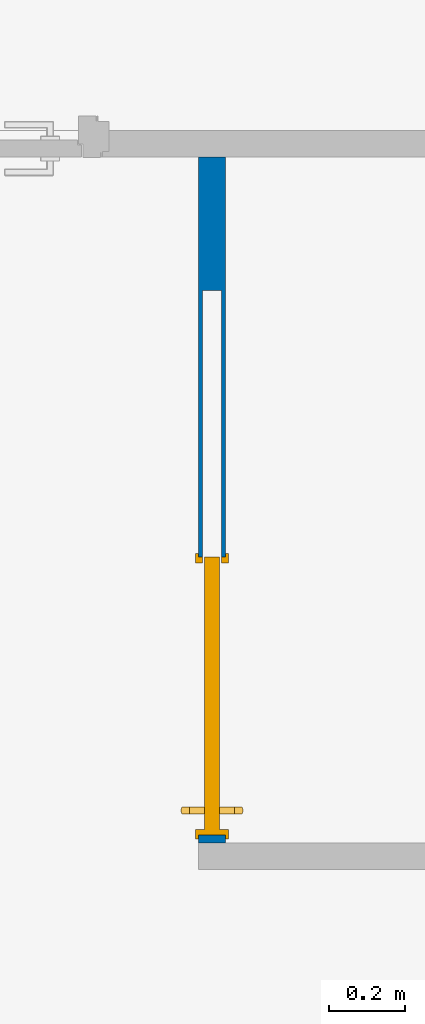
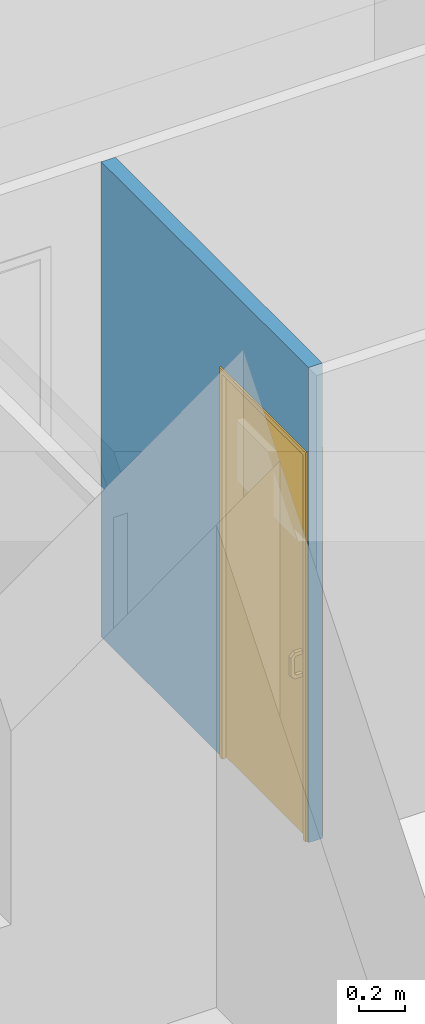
# One storey, part 29 of 61: 1 door, 1 wall, 1 opening.
"""IFC2X3 building model written with IfcOpenShell, lengths in metres."""

from ifc_helpers import new_model, entity, si_unit, converted_unit, derived_unit, direction, frame, frame_2d, origin, place, context, subcontext, project, spatial, rectangle, extrude, faceted_brep, source, transform, mapped, material, material_list, layer, layer_set, layer_usage, type_object, type_shapes, element, fill, save


model = new_model("IFC2X3")

# Units and contexts
model_context = context("Model", 3, precision=1e-05, world=origin(), true_north=direction((6.12303176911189e-17, 1.0)))
body_context = subcontext(model_context, "Body", "Model", "MODEL_VIEW")
ifc_project = project(units=[si_unit("LENGTHUNIT", "METRE"), si_unit("AREAUNIT", "SQUARE_METRE"), si_unit("VOLUMEUNIT", "CUBIC_METRE"), converted_unit("PLANEANGLEUNIT", "DEGREE", entity("IfcRatioMeasure", 0.0174532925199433), si_unit("PLANEANGLEUNIT", "RADIAN"), dimensions=[0, 0, 0, 0, 0, 0, 0]), si_unit("MASSUNIT", "GRAM", prefix="KILO"), derived_unit("MASSDENSITYUNIT", [(si_unit("MASSUNIT", "GRAM", prefix="KILO"), 1), (si_unit("LENGTHUNIT", "METRE"), -3)]), si_unit("TIMEUNIT", "SECOND"), si_unit("FREQUENCYUNIT", "HERTZ"), si_unit("THERMODYNAMICTEMPERATUREUNIT", "DEGREE_CELSIUS"), derived_unit("THERMALTRANSMITTANCEUNIT", [(si_unit("MASSUNIT", "GRAM", prefix="KILO"), 1), (si_unit("THERMODYNAMICTEMPERATUREUNIT", "KELVIN"), -1), (si_unit("TIMEUNIT", "SECOND"), -3)]), derived_unit("VOLUMETRICFLOWRATEUNIT", [(si_unit("LENGTHUNIT", "METRE"), 3), (si_unit("TIMEUNIT", "SECOND"), -1)]), si_unit("ELECTRICCURRENTUNIT", "AMPERE"), si_unit("ELECTRICVOLTAGEUNIT", "VOLT"), si_unit("POWERUNIT", "WATT"), si_unit("FORCEUNIT", "NEWTON", prefix="KILO"), si_unit("ILLUMINANCEUNIT", "LUX"), si_unit("LUMINOUSFLUXUNIT", "LUMEN"), si_unit("LUMINOUSINTENSITYUNIT", "CANDELA"), derived_unit("USERDEFINED", [(si_unit("MASSUNIT", "GRAM", prefix="KILO"), -1), (si_unit("LENGTHUNIT", "METRE"), -2), (si_unit("TIMEUNIT", "SECOND"), 3), (si_unit("LUMINOUSFLUXUNIT", "LUMEN"), 1)]), derived_unit("LINEARVELOCITYUNIT", [(si_unit("LENGTHUNIT", "METRE"), 1), (si_unit("TIMEUNIT", "SECOND"), -1)]), si_unit("PRESSUREUNIT", "PASCAL"), derived_unit("USERDEFINED", [(si_unit("LENGTHUNIT", "METRE"), -2), (si_unit("MASSUNIT", "GRAM", prefix="KILO"), 1), (si_unit("TIMEUNIT", "SECOND"), -2)])], contexts=[model_context])

# Site, building, storey
site_placement = place(None, origin())
site = spatial("IfcSite", under=ifc_project, at=site_placement, Name="Surface", CompositionType="ELEMENT")
building_placement = place(site_placement, origin())
building = spatial("IfcBuilding", under=site, at=building_placement, CompositionType="ELEMENT")
storey_placement = place(building_placement, frame((0.0, 0.0, 2.82)))
storey = spatial("IfcBuildingStorey", under=building, at=storey_placement, Name="ETAGE", CompositionType="ELEMENT", Elevation=2.82)

# Wall, opening, door
ifc_material_1 = material(Name="Peinture - Blanc")
ifc_layer = layer(ifc_material_1, 0.07)
ifc_layer_set = layer_set([ifc_layer], Name="Mur de base:Int.  Platre 70 mm en blanc")
ifc_layer_usage = layer_usage(ifc_layer_set, "AXIS2", "POSITIVE", -0.035)
wall_type = type_object("IfcWallType", Name="Mur de base:Int.  Platre 70 mm en blanc", PredefinedType="STANDARD", material=ifc_layer_set)
wall_placement = place(storey_placement, frame((81.0960189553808, 86.6075239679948, 0.0), z_axis=(0.0, 0.0, 1.0), x_axis=(0.0, -1.0, 0.0)))
wall = element("IfcWallStandardCase", 1, at=wall_placement, inside=storey, type_object=wall_type, material=ifc_layer_usage, Name="Mur de base:Int.  Platre 70 mm en blanc", ObjectType="Mur de base:Int.  Platre 70 mm en blanc", context=body_context, shape_type="SweptSolid", body=[
    extrude(rectangle(XDim=1.80000000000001, YDim=0.0699999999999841, at=frame_2d((0.900000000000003, 0.0), x_axis=(-1.0, 0.0))), origin(), (0.0, 0.0, 1.0), 2.52),
])
opening_placement = place(wall_placement, frame((1.77999999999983, -0.185000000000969, 0.0), z_axis=(0.0, 0.0, 1.0), x_axis=(0.0, 1.0, 0.0)))
opening = element("IfcOpeningElement", 2, at=opening_placement, cuts=wall, Name="Mur de base:Int.  Platre 70 mm en blanc", ObjectType="Opening", context=body_context, shape_type="Brep", body=[
    faceted_brep([(0.0, 0.0, 2.055), (0.0, 0.0, 0.0), (0.370000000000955, 0.0, 0.0), (0.370000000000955, 0.0, 2.055), (0.0, 0.729999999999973, 2.055), (0.0, 0.72999999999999, 0.0), (0.160000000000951, 0.729999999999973, 2.055), (0.160000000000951, 0.72999999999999, 0.0), (0.160000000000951, 1.42999999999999, 2.055), (0.160000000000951, 1.42999999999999, 0.0), (0.210000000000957, 1.42999999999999, 2.055), (0.210000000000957, 1.42999999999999, 0.0), (0.210000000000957, 0.729999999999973, 2.055), (0.210000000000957, 0.72999999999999, 0.0), (0.370000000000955, 0.72999999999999, 2.055), (0.370000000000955, 0.72999999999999, 0.0)], [[[0, 1, 2, 3]], [[4, 5, 1, 0]], [[6, 7, 5, 4]], [[8, 9, 7, 6]], [[10, 11, 9, 8]], [[12, 13, 11, 10]], [[14, 12, 10, 8, 6, 4, 0, 3]], [[15, 2, 1, 5, 7, 9, 11, 13]], [[3, 2, 15, 14]], [[14, 15, 13, 12]]]),
])
ifc_material_2 = material(Name="Porte - Poignée")
ifc_material_3 = material(Name="Porte - Panneau")
ifc_material_4 = material(Name="Porte - Cadre")
ifc_material_list_1 = material_list([ifc_material_2, ifc_material_3, ifc_material_4])
ifc_material_list_2 = material_list([ifc_material_2, ifc_material_3, ifc_material_4])
door_style = type_object("IfcDoorStyle", Name="0.70m x 2.04m 2", ConstructionType="NOTDEFINED", OperationType="NOTDEFINED", ParameterTakesPrecedence=False, Sizeable=False, material=ifc_material_list_2)
shared_shape = source(origin(), body_context, "Body", "Brep", [
    faceted_brep([(0.778370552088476, 0.300805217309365, 0.949316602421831), (0.783009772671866, 0.300805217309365, 0.94874401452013), (0.787648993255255, 0.300805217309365, 0.94931660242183), (0.792009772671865, 0.300805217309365, 0.951000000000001), (0.792009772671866, 0.300805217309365, 0.969), (0.787648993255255, 0.300805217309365, 0.97068339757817), (0.783009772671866, 0.300805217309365, 0.971255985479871), (0.778370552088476, 0.300805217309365, 0.97068339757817), (0.774009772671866, 0.300805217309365, 0.969), (0.774009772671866, 0.300805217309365, 0.951000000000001), (0.778370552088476, 0.300805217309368, 0.850683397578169), (0.774009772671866, 0.300805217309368, 0.848999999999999), (0.774009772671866, 0.300805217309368, 0.831), (0.778370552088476, 0.300805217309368, 0.829316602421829), (0.783009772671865, 0.300805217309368, 0.828744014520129), (0.787648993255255, 0.300805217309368, 0.829316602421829), (0.792009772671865, 0.300805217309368, 0.831), (0.792009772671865, 0.300805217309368, 0.848999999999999), (0.787648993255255, 0.300805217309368, 0.850683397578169), (0.783009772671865, 0.300805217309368, 0.85125598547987), (0.792009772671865, 0.339533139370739, 0.831), (0.792009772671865, 0.359805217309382, 0.851272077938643), (0.792009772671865, 0.359805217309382, 0.948727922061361), (0.792009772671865, 0.33953313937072, 0.969), (0.792009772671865, 0.33207729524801, 0.951000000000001), (0.792009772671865, 0.341805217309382, 0.941272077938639), (0.792009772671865, 0.341805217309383, 0.858727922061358), (0.792009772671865, 0.332077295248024, 0.848999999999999), (0.787648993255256, 0.340230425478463, 0.97068339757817), (0.783009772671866, 0.340467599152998, 0.971255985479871), (0.778370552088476, 0.340230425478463, 0.97068339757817), (0.774009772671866, 0.33953313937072, 0.969), (0.774009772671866, 0.359805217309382, 0.948727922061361), (0.774009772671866, 0.359805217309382, 0.851272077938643), (0.774009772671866, 0.339533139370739, 0.831), (0.774009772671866, 0.332077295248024, 0.848999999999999), (0.774009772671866, 0.341805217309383, 0.858727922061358), (0.774009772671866, 0.341805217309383, 0.94127207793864), (0.774009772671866, 0.33207729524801, 0.951000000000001), (0.778370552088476, 0.331380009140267, 0.949316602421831), (0.783009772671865, 0.331142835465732, 0.94874401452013), (0.787648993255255, 0.331380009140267, 0.94931660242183), (0.787648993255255, 0.361488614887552, 0.949425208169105), (0.783009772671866, 0.362061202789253, 0.949662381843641), (0.778370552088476, 0.361488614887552, 0.949425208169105), (0.778370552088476, 0.340121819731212, 0.940574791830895), (0.783009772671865, 0.339549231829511, 0.940337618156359), (0.787648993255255, 0.340121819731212, 0.940574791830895), (0.787648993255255, 0.361488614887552, 0.850574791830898), (0.783009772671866, 0.362061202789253, 0.850337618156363), (0.778370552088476, 0.361488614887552, 0.850574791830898), (0.778370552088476, 0.340121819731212, 0.859425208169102), (0.783009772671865, 0.339549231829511, 0.859662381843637), (0.787648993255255, 0.340121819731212, 0.859425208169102), (0.787648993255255, 0.340230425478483, 0.829316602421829), (0.783009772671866, 0.340467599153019, 0.828744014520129), (0.778370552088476, 0.340230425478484, 0.829316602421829), (0.778370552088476, 0.33138000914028, 0.850683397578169), (0.783009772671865, 0.331142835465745, 0.85125598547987), (0.787648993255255, 0.33138000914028, 0.850683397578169)], [[[0, 1, 2, 3, 4, 5, 6, 7, 8, 9]], [[10, 11, 12, 13, 14, 15, 16, 17, 18, 19]], [[16, 20, 21, 22, 23, 4, 3, 24, 25, 26, 27, 17]], [[23, 28, 5, 4]], [[5, 28, 29, 6]], [[30, 7, 6, 29]], [[7, 30, 31, 8]], [[8, 31, 32, 33, 34, 12, 11, 35, 36, 37, 38, 9]], [[38, 39, 0, 9]], [[1, 0, 39, 40]], [[41, 24, 3, 2]], [[41, 2, 1, 40]], [[22, 42, 28, 23]], [[28, 42, 43, 29]], [[43, 44, 30, 29]], [[44, 32, 31, 30]], [[37, 45, 39, 38]], [[39, 45, 46, 40]], [[47, 25, 24, 41]], [[41, 40, 46, 47]], [[21, 48, 42, 22]], [[42, 48, 49, 43]], [[49, 50, 44, 43]], [[50, 33, 32, 44]], [[36, 51, 45, 37]], [[46, 45, 51, 52]], [[53, 26, 25, 47]], [[53, 47, 46, 52]], [[20, 54, 48, 21]], [[48, 54, 55, 49]], [[55, 56, 50, 49]], [[56, 34, 33, 50]], [[35, 57, 51, 36]], [[51, 57, 58, 52]], [[59, 27, 26, 53]], [[53, 52, 58, 59]], [[16, 15, 54, 20]], [[55, 54, 15, 14]], [[13, 12, 34, 56]], [[13, 56, 55, 14]], [[11, 10, 57, 35]], [[58, 57, 10, 19]], [[18, 17, 27, 59]], [[59, 58, 19, 18]]]),
    faceted_brep([(0.778370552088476, 0.260805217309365, 0.97068339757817), (0.783009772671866, 0.260805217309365, 0.971255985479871), (0.787648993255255, 0.260805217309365, 0.97068339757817), (0.792009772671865, 0.260805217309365, 0.969), (0.792009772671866, 0.260805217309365, 0.951000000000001), (0.787648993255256, 0.260805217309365, 0.94931660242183), (0.783009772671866, 0.260805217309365, 0.94874401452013), (0.778370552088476, 0.260805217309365, 0.94931660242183), (0.774009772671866, 0.260805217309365, 0.951000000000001), (0.774009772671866, 0.260805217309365, 0.969), (0.783009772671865, 0.260805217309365, 0.828744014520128), (0.778370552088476, 0.260805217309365, 0.829316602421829), (0.774009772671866, 0.260805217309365, 0.831), (0.774009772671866, 0.260805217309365, 0.848999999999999), (0.778370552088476, 0.260805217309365, 0.850683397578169), (0.783009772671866, 0.260805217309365, 0.85125598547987), (0.787648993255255, 0.260805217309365, 0.850683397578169), (0.792009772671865, 0.260805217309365, 0.848999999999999), (0.792009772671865, 0.260805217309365, 0.831), (0.787648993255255, 0.260805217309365, 0.829316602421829), (0.774009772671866, 0.222077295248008, 0.969), (0.778370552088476, 0.221380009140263, 0.97068339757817), (0.783009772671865, 0.221142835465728, 0.971255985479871), (0.787648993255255, 0.221380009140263, 0.970683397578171), (0.792009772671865, 0.222077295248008, 0.969), (0.792009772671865, 0.201805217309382, 0.948727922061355), (0.792009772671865, 0.201805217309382, 0.851272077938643), (0.792009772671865, 0.222077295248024, 0.831), (0.792009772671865, 0.22953313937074, 0.848999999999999), (0.792009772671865, 0.219805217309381, 0.858727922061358), (0.792009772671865, 0.219805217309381, 0.941272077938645), (0.792009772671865, 0.229533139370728, 0.951000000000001), (0.787648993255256, 0.230230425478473, 0.94931660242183), (0.783009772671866, 0.230467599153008, 0.94874401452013), (0.778370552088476, 0.230230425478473, 0.94931660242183), (0.774009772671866, 0.229533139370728, 0.951000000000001), (0.774009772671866, 0.222077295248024, 0.831), (0.774009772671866, 0.201805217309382, 0.851272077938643), (0.774009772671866, 0.201805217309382, 0.948727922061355), (0.774009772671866, 0.219805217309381, 0.941272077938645), (0.774009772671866, 0.219805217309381, 0.858727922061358), (0.774009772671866, 0.229533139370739, 0.848999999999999), (0.778370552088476, 0.200121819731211, 0.949425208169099), (0.783009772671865, 0.199549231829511, 0.949662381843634), (0.787648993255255, 0.200121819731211, 0.949425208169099), (0.787648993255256, 0.221488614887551, 0.940574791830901), (0.783009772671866, 0.222061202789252, 0.940337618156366), (0.778370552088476, 0.221488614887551, 0.940574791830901), (0.778370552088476, 0.200121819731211, 0.850574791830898), (0.783009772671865, 0.19954923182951, 0.850337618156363), (0.787648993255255, 0.200121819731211, 0.850574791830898), (0.787648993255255, 0.221488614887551, 0.859425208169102), (0.783009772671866, 0.222061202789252, 0.859662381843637), (0.778370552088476, 0.221488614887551, 0.859425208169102), (0.778370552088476, 0.22138000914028, 0.829316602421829), (0.783009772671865, 0.221142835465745, 0.828744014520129), (0.787648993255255, 0.22138000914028, 0.829316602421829), (0.787648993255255, 0.230230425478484, 0.850683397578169), (0.783009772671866, 0.230467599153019, 0.85125598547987), (0.778370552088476, 0.230230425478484, 0.850683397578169)], [[[0, 1, 2, 3, 4, 5, 6, 7, 8, 9]], [[10, 11, 12, 13, 14, 15, 16, 17, 18, 19]], [[20, 21, 0, 9]], [[0, 21, 22, 1]], [[23, 2, 1, 22]], [[2, 23, 24, 3]], [[3, 24, 25, 26, 27, 18, 17, 28, 29, 30, 31, 4]], [[31, 32, 5, 4]], [[6, 5, 32, 33]], [[34, 35, 8, 7]], [[34, 7, 6, 33]], [[12, 36, 37, 38, 20, 9, 8, 35, 39, 40, 41, 13]], [[38, 42, 21, 20]], [[21, 42, 43, 22]], [[43, 44, 23, 22]], [[44, 25, 24, 23]], [[30, 45, 32, 31]], [[32, 45, 46, 33]], [[47, 39, 35, 34]], [[34, 33, 46, 47]], [[37, 48, 42, 38]], [[42, 48, 49, 43]], [[49, 50, 44, 43]], [[50, 26, 25, 44]], [[29, 51, 45, 30]], [[46, 45, 51, 52]], [[53, 40, 39, 47]], [[53, 47, 46, 52]], [[36, 54, 48, 37]], [[48, 54, 55, 49]], [[55, 56, 50, 49]], [[56, 27, 26, 50]], [[28, 57, 51, 29]], [[51, 57, 58, 52]], [[59, 41, 40, 53]], [[53, 52, 58, 59]], [[12, 11, 54, 36]], [[55, 54, 11, 10]], [[19, 18, 27, 56]], [[19, 56, 55, 10]], [[17, 16, 57, 28]], [[58, 57, 16, 15]], [[14, 13, 41, 59]], [[59, 58, 15, 14]]]),
    faceted_brep([(0.733009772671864, 0.260805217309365, 2.04), (1.44800977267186, 0.260805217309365, 2.04), (1.44800977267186, 0.300805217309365, 2.04), (0.733009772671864, 0.300805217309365, 2.04), (0.733009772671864, 0.260805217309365, 0.0), (0.733009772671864, 0.300805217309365, 0.0), (1.44800977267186, 0.300805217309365, 0.0), (1.44800977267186, 0.260805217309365, 0.0)], [[[0, 1, 2, 3]], [[4, 5, 6, 7]], [[3, 5, 4, 0]], [[2, 6, 5, 3]], [[1, 7, 6, 2]], [[0, 4, 7, 1]]]),
    faceted_brep([(1.44800977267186, 0.315805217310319, 0.0), (1.44800977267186, 0.305805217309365, 0.0), (1.43300977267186, 0.305805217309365, 0.0), (1.43300977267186, 0.323805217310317, 0.0), (1.45800977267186, 0.323805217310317, 0.0), (1.45800977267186, 0.315805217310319, 0.0), (1.45800977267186, 0.315805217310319, 2.065), (0.708009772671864, 0.315805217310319, 2.065), (0.708009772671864, 0.315805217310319, 0.0), (0.718009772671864, 0.315805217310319, 0.0), (0.718009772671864, 0.315805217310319, 2.055), (1.44800977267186, 0.315805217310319, 2.055), (1.45800977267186, 0.323805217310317, 2.065), (1.43300977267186, 0.323805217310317, 2.04), (0.733009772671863, 0.323805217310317, 2.04), (0.733009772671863, 0.323805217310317, 0.0), (0.708009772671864, 0.323805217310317, 0.0), (0.708009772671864, 0.323805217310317, 2.065), (1.43300977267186, 0.305805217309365, 2.04), (1.44800977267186, 0.305805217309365, 2.04), (1.44800977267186, 0.245805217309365, 0.0), (1.44800977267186, 0.255805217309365, 0.0), (1.44800977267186, 0.255805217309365, 2.04), (1.44800977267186, 0.245805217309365, 2.055), (1.45800977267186, 0.237805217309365, 0.0), (1.45800977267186, 0.237805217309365, 2.065), (0.708009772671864, 0.237805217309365, 2.065), (0.708009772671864, 0.237805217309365, 0.0), (0.733009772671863, 0.237805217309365, 0.0), (0.733009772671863, 0.237805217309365, 2.04), (1.43300977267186, 0.237805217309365, 2.04), (1.43300977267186, 0.237805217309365, 0.0), (1.45800977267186, 0.245805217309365, 0.0), (1.45800977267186, 0.245805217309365, 2.065), (0.718009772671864, 0.245805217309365, 2.055), (0.718009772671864, 0.245805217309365, 0.0), (0.708009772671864, 0.245805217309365, 0.0), (0.708009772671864, 0.245805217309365, 2.065), (1.43300977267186, 0.255805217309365, 0.0), (1.43300977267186, 0.255805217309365, 2.04)], [[[0, 1, 2, 3, 4, 5]], [[5, 6, 7, 8, 9, 10, 11, 0]], [[4, 12, 6, 5]], [[3, 13, 14, 15, 16, 17, 12, 4]], [[3, 2, 18, 13]], [[18, 2, 1, 19]], [[20, 21, 22, 19, 1, 0, 11, 23]], [[24, 25, 26, 27, 28, 29, 30, 31]], [[32, 33, 25, 24]], [[20, 23, 34, 35, 36, 37, 33, 32]], [[22, 21, 38, 39]], [[9, 35, 34, 10]], [[8, 16, 15, 28, 27, 36, 35, 9]], [[7, 17, 16, 8]], [[14, 29, 28, 15]], [[26, 37, 36, 27]], [[11, 10, 34, 23]], [[6, 12, 17, 7]], [[13, 18, 19, 22, 39, 30, 29, 14]], [[25, 33, 37, 26]], [[30, 39, 38, 31]], [[31, 38, 21, 20, 32, 24]]]),
])
type_shapes(door_style, [shared_shape])
door_placement = place(opening_placement, frame((0.465805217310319, -0.718009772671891, 0.0), z_axis=(0.0, 0.0, 1.0), x_axis=(0.0, 1.0, 0.0)))
door = element("IfcDoor", 3, at=door_placement, inside=storey, type_object=door_style, material=ifc_material_list_1, Name="Coulissante - Encastrée:0.70m x 2.04m 2", ObjectType="Coulissante - Encastrée:0.70m x 2.04m 2", OverallHeight=2.065, OverallWidth=1.44000000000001, context=body_context, shape_type="MappedRepresentation", body=[
    mapped(shared_shape, transform((0.0, 0.0, 0.0), scale=1.0)),
])
fill(opening, door)

save(model, "model.ifc")
